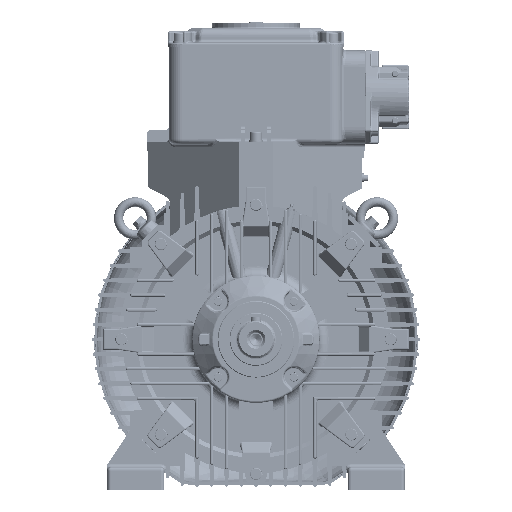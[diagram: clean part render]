
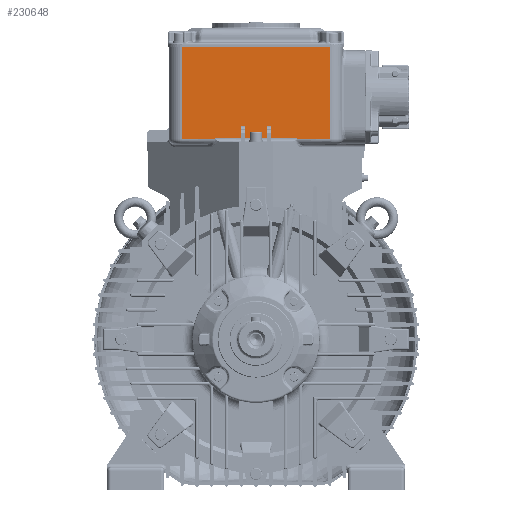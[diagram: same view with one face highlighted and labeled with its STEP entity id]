
A CAD part, left-side view. The second image highlights one B-rep face of the part: STEP entity #230648.
In plain terms, the highlighted planar face has unit normal (-1, 0, 0).
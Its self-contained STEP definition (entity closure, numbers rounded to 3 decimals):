
#14841=LINE('',#333161,#31226);
#15046=LINE('',#336404,#31431);
#15049=LINE('',#336417,#31434);
#15156=LINE('',#337229,#31541);
#15160=LINE('',#337241,#31545);
#15164=LINE('',#337250,#31549);
#15167=LINE('',#337255,#31552);
#15190=LINE('',#337316,#31575);
#15197=LINE('',#337637,#31582);
#15205=LINE('',#337916,#31590);
#15208=LINE('',#337921,#31593);
#15217=LINE('',#337955,#31602);
#15241=LINE('',#338049,#31626);
#15242=LINE('',#338051,#31627);
#15294=LINE('',#338462,#31679);
#15295=LINE('',#338463,#31680);
#31226=VECTOR('',#276006,1000.);
#31431=VECTOR('',#276967,1000.);
#31434=VECTOR('',#276978,1000.);
#31541=VECTOR('',#277485,1000.);
#31545=VECTOR('',#277495,1000.);
#31549=VECTOR('',#277503,1000.);
#31552=VECTOR('',#277508,1000.);
#31575=VECTOR('',#277577,1000.);
#31582=VECTOR('',#277620,1000.);
#31590=VECTOR('',#277672,1000.);
#31593=VECTOR('',#277677,1000.);
#31602=VECTOR('',#277718,1000.);
#31626=VECTOR('',#277842,1000.);
#31627=VECTOR('',#277845,1000.);
#31679=VECTOR('',#278027,1000.);
#31680=VECTOR('',#278028,1000.);
#39347=PLANE('',#242392);
#77901=ORIENTED_EDGE('',*,*,#109482,.T.);
#77902=ORIENTED_EDGE('',*,*,#109224,.F.);
#77903=ORIENTED_EDGE('',*,*,#109479,.T.);
#77904=ORIENTED_EDGE('',*,*,#109591,.F.);
#77905=ORIENTED_EDGE('',*,*,#109512,.F.);
#77906=ORIENTED_EDGE('',*,*,#109570,.T.);
#77907=ORIENTED_EDGE('',*,*,#109635,.F.);
#77908=ORIENTED_EDGE('',*,*,#108760,.F.);
#77909=ORIENTED_EDGE('',*,*,#109636,.T.);
#77910=ORIENTED_EDGE('',*,*,#109573,.T.);
#77911=ORIENTED_EDGE('',*,*,#109540,.F.);
#77912=ORIENTED_EDGE('',*,*,#109730,.F.);
#77913=ORIENTED_EDGE('',*,*,#109468,.F.);
#77914=ORIENTED_EDGE('',*,*,#109230,.T.);
#77915=ORIENTED_EDGE('',*,*,#109474,.F.);
#77916=ORIENTED_EDGE('',*,*,#109731,.F.);
#108760=EDGE_CURVE('',#127502,#127503,#14841,.T.);
#109224=EDGE_CURVE('',#127841,#127842,#15046,.T.);
#109230=EDGE_CURVE('',#127845,#127847,#15049,.T.);
#109468=EDGE_CURVE('',#127845,#127988,#15156,.T.);
#109474=EDGE_CURVE('',#127992,#127847,#15160,.T.);
#109479=EDGE_CURVE('',#127841,#127995,#15164,.T.);
#109482=EDGE_CURVE('',#127997,#127842,#15167,.T.);
#109512=EDGE_CURVE('',#128011,#128012,#15190,.T.);
#109540=EDGE_CURVE('',#128031,#128032,#15197,.T.);
#109570=EDGE_CURVE('',#128011,#128051,#15205,.T.);
#109573=EDGE_CURVE('',#128054,#128032,#15208,.T.);
#109591=EDGE_CURVE('',#128012,#127995,#15217,.T.);
#109635=EDGE_CURVE('',#127503,#128051,#15241,.T.);
#109636=EDGE_CURVE('',#127502,#128054,#15242,.T.);
#109730=EDGE_CURVE('',#127988,#128031,#15294,.T.);
#109731=EDGE_CURVE('',#127997,#127992,#15295,.T.);
#127502=VERTEX_POINT('',#333160);
#127503=VERTEX_POINT('',#333162);
#127841=VERTEX_POINT('',#336403);
#127842=VERTEX_POINT('',#336405);
#127845=VERTEX_POINT('',#336412);
#127847=VERTEX_POINT('',#336416);
#127988=VERTEX_POINT('',#337230);
#127992=VERTEX_POINT('',#337240);
#127995=VERTEX_POINT('',#337249);
#127997=VERTEX_POINT('',#337256);
#128011=VERTEX_POINT('',#337315);
#128012=VERTEX_POINT('',#337317);
#128031=VERTEX_POINT('',#337636);
#128032=VERTEX_POINT('',#337638);
#128051=VERTEX_POINT('',#337911);
#128054=VERTEX_POINT('',#337922);
#142729=EDGE_LOOP('',(#77901,#77902,#77903,#77904,#77905,#77906,#77907,
#77908,#77909,#77910,#77911,#77912,#77913,#77914,#77915,#77916));
#154987=FACE_BOUND('',#142729,.T.);
#230648=ADVANCED_FACE('',(#154987),#39347,.F.);
#242392=AXIS2_PLACEMENT_3D('',#338461,#278025,#278026);
#276006=DIRECTION('',(0.,-1.,0.));
#276967=DIRECTION('',(0.,1.,0.));
#276978=DIRECTION('',(0.,-1.,0.));
#277485=DIRECTION('',(0.,0.,-1.));
#277495=DIRECTION('',(0.,0.,1.));
#277503=DIRECTION('',(0.,0.,-1.));
#277508=DIRECTION('',(0.,0.,1.));
#277577=DIRECTION('',(0.,0.,1.));
#277620=DIRECTION('',(0.,0.,-1.));
#277672=DIRECTION('',(0.,-1.,0.));
#277677=DIRECTION('',(0.,-1.,0.));
#277718=DIRECTION('',(0.,1.,0.));
#277842=DIRECTION('',(0.,0.,-1.));
#277845=DIRECTION('',(0.,0.,-1.));
#278025=DIRECTION('',(1.,0.,0.));
#278026=DIRECTION('',(0.,0.,-1.));
#278027=DIRECTION('',(0.,1.,0.));
#278028=DIRECTION('',(0.,1.,0.));
#333160=CARTESIAN_POINT('',(46.,110.,435.997));
#333161=CARTESIAN_POINT('',(46.,110.,435.997));
#333162=CARTESIAN_POINT('',(46.,-110.,435.997));
#336403=CARTESIAN_POINT('',(46.,-23.,318.));
#336404=CARTESIAN_POINT('',(46.,-23.,318.));
#336405=CARTESIAN_POINT('',(46.,-17.,318.));
#336412=CARTESIAN_POINT('',(46.,23.,318.));
#336416=CARTESIAN_POINT('',(46.,17.,318.));
#336417=CARTESIAN_POINT('',(46.,110.,318.));
#337229=CARTESIAN_POINT('',(46.,23.,435.997));
#337230=CARTESIAN_POINT('',(46.,23.,300.));
#337240=CARTESIAN_POINT('',(46.,17.,300.));
#337241=CARTESIAN_POINT('',(46.,17.,435.997));
#337249=CARTESIAN_POINT('',(46.,-23.,300.));
#337250=CARTESIAN_POINT('',(46.,-23.,435.997));
#337255=CARTESIAN_POINT('',(46.,-17.,435.997));
#337256=CARTESIAN_POINT('',(46.,-17.,300.));
#337315=CARTESIAN_POINT('',(46.,-60.899,299.497));
#337316=CARTESIAN_POINT('',(46.,-60.899,299.497));
#337317=CARTESIAN_POINT('',(46.,-60.899,300.));
#337636=CARTESIAN_POINT('',(46.,60.899,300.));
#337637=CARTESIAN_POINT('',(46.,60.899,300.));
#337638=CARTESIAN_POINT('',(46.,60.899,299.497));
#337911=CARTESIAN_POINT('',(46.,-110.,299.497));
#337916=CARTESIAN_POINT('',(46.,110.,299.497));
#337921=CARTESIAN_POINT('',(46.,110.,299.497));
#337922=CARTESIAN_POINT('',(46.,110.,299.497));
#337955=CARTESIAN_POINT('',(46.,-58.828,300.));
#338049=CARTESIAN_POINT('',(46.,-110.,435.997));
#338051=CARTESIAN_POINT('',(46.,110.,435.997));
#338461=CARTESIAN_POINT('',(46.,110.,435.997));
#338462=CARTESIAN_POINT('',(46.,-58.828,300.));
#338463=CARTESIAN_POINT('',(46.,-58.828,300.));
